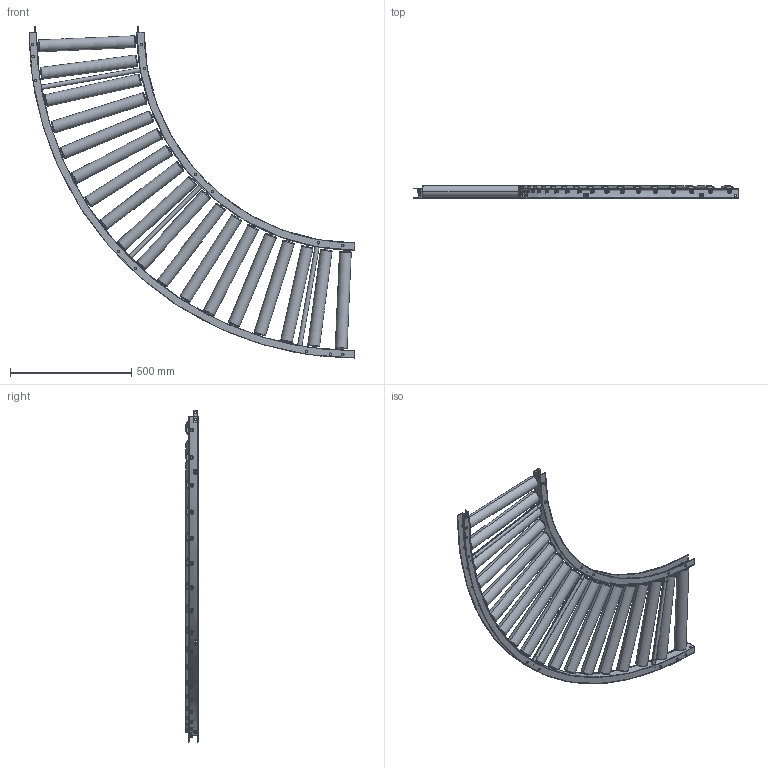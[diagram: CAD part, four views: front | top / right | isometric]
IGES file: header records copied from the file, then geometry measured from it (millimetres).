
Start section: SolidWorks IGES file using analytic representation for surfaces
Global section: file name: C:\Users\0656\Desktop\変換ツール\iges変換\R-4814PL_C.igs; native system: SolidWorks 2023; preprocessor: SolidWorks 2023; author: 0656; date: 240315.111905; units: millimetre
Bounding box: 1345 x 52.3 x 1370.08 mm (x, y, z)
Surface area: 2787532.9 mm2 (no closed solid volume)
Topology: 0 solids, 0 shells, 820 faces, 17092 edges, 17080 vertices
Faces by surface type: revolution 430, bspline 390
